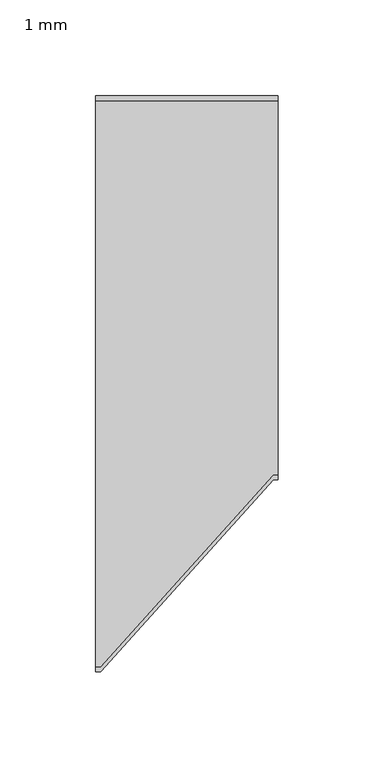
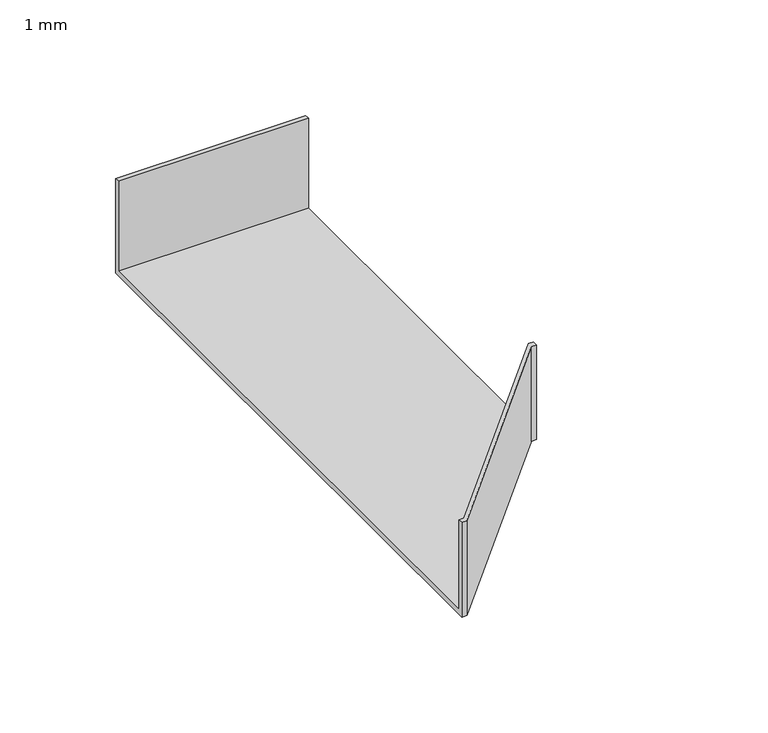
"""IFC4 building model written with IfcOpenShell, lengths in millimetres: cable carrier fitting geometry, BAKS_Redukcja : 1 mm."""

import ifcopenshell
import ifcopenshell.guid

model = None  # the IFC model being written
_history = None  # IfcOwnerHistory: only IFC2X3 demands one
_inside = {}  # id of a spatial element -> (the spatial element, [elements in it])
_under = {}  # id of a project, library or spatial element -> (it, [spatial elements below it])
_declared = {}  # id of a project -> (the project, [libraries it declares])
_typed = {}  # id of a type object -> (the type object, [elements of that type])
_made_of = {}  # id of a material, layer set ... -> (it, [elements and type objects made of it])


def new_model(schema):
    """Start an empty IFC model of exactly this schema.

    Asked for "IFC4X3", IfcOpenShell would pick the latest addendum, in which some entities
    have other attributes; the version numbers below select the first issue.
    IFC2X3 requires an IfcOwnerHistory on every rooted entity: one is made here for all.
    """
    global model, _history
    if schema == "IFC4X3":
        model = ifcopenshell.file(schema_version=(4, 3, 0, 0))
    else:
        model = ifcopenshell.file(schema=schema)
    _inside.clear()
    _under.clear()
    _declared.clear()
    _typed.clear()
    _made_of.clear()
    _history = None
    if model.schema == "IFC2X3":
        org = make("IfcOrganization", Name="unknown")
        user = make(
            "IfcPersonAndOrganization",
            ThePerson=make("IfcPerson", FamilyName="unknown"),
            TheOrganization=org,
        )
        app = make(
            "IfcApplication",
            ApplicationDeveloper=org,
            Version="unknown",
            ApplicationFullName="unknown",
            ApplicationIdentifier="unknown",
        )
        _history = make(
            "IfcOwnerHistory",
            OwningUser=user,
            OwningApplication=app,
            ChangeAction="ADDED",
            CreationDate=0,
        )
    return model


def make(cls, **values):
    """One entity of the class cls with the attributes given. An attribute that is None is left unset."""
    return model.create_entity(
        cls, **{name: value for name, value in values.items() if value is not None}
    )


def rooted(cls, **values):
    """An entity with a GlobalId (a new one), such as an element, a storey or a relation."""
    return make(cls, GlobalId=ifcopenshell.guid.new(), OwnerHistory=_history, **values)


def si_unit(unit_type, name, prefix=None):
    """IfcSIUnit, for example si_unit("LENGTHUNIT", "METRE", prefix="MILLI")."""
    return make("IfcSIUnit", UnitType=unit_type, Prefix=prefix, Name=name)


def assignment(units):
    """IfcUnitAssignment: the units of a project."""
    return None if units is None else make("IfcUnitAssignment", Units=units)


def point(xyz):
    """IfcCartesianPoint."""
    return None if xyz is None else make("IfcCartesianPoint", Coordinates=xyz)


def direction(xyz):
    """IfcDirection."""
    return None if xyz is None else make("IfcDirection", DirectionRatios=xyz)


def frame(location, z_axis=None, x_axis=None):
    """IfcAxis2Placement3D, a coordinate frame: its origin and axes. An axis left out is left unset."""
    return make(
        "IfcAxis2Placement3D",
        Location=point(location),
        Axis=direction(z_axis),
        RefDirection=direction(x_axis),
    )


def origin():
    """The frame at (0, 0, 0) with its axes left unset."""
    return frame((0.0, 0.0, 0.0))


def place(relative_to, where):
    """IfcLocalPlacement: puts the frame where relative to a parent placement (None: the world)."""
    return make(
        "IfcLocalPlacement", PlacementRelTo=relative_to, RelativePlacement=where
    )


def context(
    kind, dimensions, precision=None, world=None, true_north=None, identifier=None
):
    """IfcGeometricRepresentationContext, for example the 3D "Model" context."""
    return make(
        "IfcGeometricRepresentationContext",
        ContextIdentifier=identifier,
        ContextType=kind,
        CoordinateSpaceDimension=dimensions,
        Precision=precision,
        WorldCoordinateSystem=world,
        TrueNorth=true_north,
    )


def project(units=None, contexts=None):
    """IfcProject with its units and contexts."""
    return rooted(
        "IfcProject",
        Name="project",
        RepresentationContexts=contexts,
        UnitsInContext=assignment(units),
    )


def spatial(cls, under=None, at=None, **own):
    """A site, building, storey or space (cls), placed at a placement, below another one or the project."""
    s = rooted(cls, ObjectPlacement=at, **own)
    if under is not None:
        _under.setdefault(under.id(), (under, []))[1].append(s)
    return s


def faces_of(points, faces, orient=None, outer=None):
    """IfcFace entities. A face is a list of loops; a loop is a list of indices into points, from 0.

    orient and outer hold one flag for each loop. By default every Orientation is true, the
    first loop of a face is its IfcFaceOuterBound and the others are IfcFaceBound.
    """
    made = []
    for i, loops in enumerate(faces):
        bounds = []
        for j, loop in enumerate(loops):
            is_outer = j == 0 if outer is None else outer[i][j]
            bounds.append(
                make(
                    "IfcFaceOuterBound" if is_outer else "IfcFaceBound",
                    Bound=make("IfcPolyLoop", Polygon=[points[k] for k in loop]),
                    Orientation=True if orient is None else orient[i][j],
                )
            )
        made.append(make("IfcFace", Bounds=bounds))
    return made


def faceted_brep(points, faces, orient=None, outer=None, voids=None):
    """IfcFacetedBrep: a solid bounded by flat faces; with voids (closed shells), ...WithVoids."""
    shared = [point(p) for p in points]
    hull = make("IfcClosedShell", CfsFaces=faces_of(shared, faces, orient, outer))
    if voids is None:
        return make("IfcFacetedBrep", Outer=hull)
    return make(
        "IfcFacetedBrepWithVoids",
        Outer=hull,
        Voids=[
            make(cls, CfsFaces=faces_of(shared, fs, o, b)) for cls, fs, o, b in voids
        ],
    )


def shape(context_of_items, identifier, shape_type, items):
    """IfcShapeRepresentation: the items that make up one representation, for example the "Body"."""
    return make(
        "IfcShapeRepresentation",
        ContextOfItems=context_of_items,
        RepresentationIdentifier=identifier,
        RepresentationType=shape_type,
        Items=items,
    )


def source(mapping_origin, context_of_items, identifier, shape_type, items):
    """IfcRepresentationMap: a shape defined once, which mapped items show again and again."""
    return make(
        "IfcRepresentationMap",
        MappingOrigin=mapping_origin,
        MappedRepresentation=shape(context_of_items, identifier, shape_type, items),
    )


def transform(
    local_origin,
    x_axis=None,
    y_axis=None,
    z_axis=None,
    scale=None,
    scale2=None,
    scale3=None,
    uniform=True,
):
    """IfcCartesianTransformationOperator3D, or its non-uniform kind. x_axis, y_axis, z_axis: its Axis1, 2, 3."""
    if uniform:
        return make(
            "IfcCartesianTransformationOperator3D",
            Axis1=direction(x_axis),
            Axis2=direction(y_axis),
            LocalOrigin=point(local_origin),
            Scale=scale,
            Axis3=direction(z_axis),
        )
    return make(
        "IfcCartesianTransformationOperator3DnonUniform",
        Axis1=direction(x_axis),
        Axis2=direction(y_axis),
        LocalOrigin=point(local_origin),
        Scale=scale,
        Axis3=direction(z_axis),
        Scale2=scale2,
        Scale3=scale3,
    )


def mapped(mapping_source, mapping_target):
    """IfcMappedItem: shows the shape of a source again, moved by a transform."""
    return make(
        "IfcMappedItem", MappingSource=mapping_source, MappingTarget=mapping_target
    )


def made_of(thing, what):
    """Note that an element or type object is made of a material, layer set ...; save() writes the relation."""
    if what is not None:
        _made_of.setdefault(what.id(), (what, []))[1].append(thing)
    return thing


def element(
    cls,
    number,
    at=None,
    inside=None,
    cuts=None,
    type_object=None,
    material=None,
    context=None,
    identifier="Body",
    shape_type=None,
    held_by="IfcProductDefinitionShape",
    body=None,
    shapes=None,
    **own,
):
    """One element of the class cls, such as IfcWall. Its Tag is "e" and its number.

    at: its placement. inside: the storey or other place that contains it. cuts: it is an
    opening in that element (IfcRelVoidsElement). A single representation is given by context,
    identifier, shape_type and body (its items); several are given by shapes. held_by: the class
    of the entity that holds the representations. save() writes the other relations.
    """
    e = rooted(cls, Tag="e%d" % number, ObjectPlacement=at, **own)
    if body is not None:
        shapes = [shape(context, identifier, shape_type, body)]
    if shapes is not None:
        e.Representation = make(held_by, Representations=shapes)
    if inside is not None:
        _inside.setdefault(inside.id(), (inside, []))[1].append(e)
    if cuts is not None:
        rooted(
            "IfcRelVoidsElement", RelatingBuildingElement=cuts, RelatedOpeningElement=e
        )
    if type_object is not None:
        _typed.setdefault(type_object.id(), (type_object, []))[1].append(e)
    return made_of(e, material)


def aggregate(whole, parts):
    """IfcRelAggregates: a whole, such as a stair, and the parts it consists of."""
    return rooted("IfcRelAggregates", RelatingObject=whole, RelatedObjects=parts)


def save(model, path):
    """Write the relations noted so far, then the file.

    IfcRelAggregates (storeys below a building ...), IfcRelContainedInSpatialStructure (elements
    in a storey), IfcRelDefinesByType, IfcRelAssociatesMaterial and IfcRelDeclares: one each for
    every whole, place, type object, material and project.
    """
    for whole, parts in _under.values():
        aggregate(whole, parts)
    for where, things in _inside.values():
        rooted(
            "IfcRelContainedInSpatialStructure",
            RelatedElements=things,
            RelatingStructure=where,
        )
    for kind, things in _typed.values():
        rooted("IfcRelDefinesByType", RelatedObjects=things, RelatingType=kind)
    for what, things in _made_of.values():
        rooted("IfcRelAssociatesMaterial", RelatedObjects=things, RelatingMaterial=what)
    for by, libraries in _declared.values():
        rooted("IfcRelDeclares", RelatingContext=by, RelatedDefinitions=libraries)
    model.write(path)


def cable_carrier_fitting_1_mm_2e661681(model_context):
    return source(origin(), model_context, "Body", "Brep", [
        faceted_brep([(0.0, -150.0, -25.0), (0.0, -150.0, 25.0), (0.0, -147.46, 25.0), (0.0, -147.46, -22.46), (0.0, 147.46, -22.46), (0.0, 147.46, 25.0), (0.0, 150.0, 25.0), (0.0, 150.0, -25.0), (95.0, -50.0, -25.0), (95.0, 150.0, -25.0), (95.0, 150.0, 25.0), (95.0, 147.46, 25.0), (95.0, 147.46, -22.46), (95.0, -47.46, -22.46), (95.0, -47.46, 25.0), (95.0, -50.0, 25.0), (2.5, -150.0, -25.0), (2.5, -150.0, 25.0), (92.5, -50.0, 25.0), (92.5, -47.46, 25.0), (2.5, -147.46, 25.0), (2.5, -147.46, -22.46), (92.5, -47.46, -22.46), (92.5, -50.0, -25.0)], [[[0, 1, 2, 3, 4, 5, 6, 7]], [[8, 9, 10, 11, 12, 13, 14, 15]], [[1, 0, 16, 17]], [[2, 1, 17, 18, 15, 14, 19, 20]], [[3, 2, 20, 21]], [[4, 3, 21, 22, 13, 12]], [[5, 4, 12, 11]], [[6, 5, 11, 10]], [[7, 6, 10, 9]], [[0, 7, 9, 8, 23, 16]], [[8, 15, 18, 23]], [[14, 13, 22, 19]], [[22, 21, 20, 19]], [[16, 23, 18, 17]]]),
    ])


if __name__ == "__main__":
    model = new_model("IFC4")
    model_context = context("Model", 3, world=origin())
    ifc_project = project(units=[si_unit("LENGTHUNIT", "METRE", prefix="MILLI")], contexts=[model_context])
    site = spatial("IfcSite", under=ifc_project)
    building = spatial("IfcBuilding", under=site)
    placement = place(None, origin())
    cable_carrier_fitting_1_mm_shape = cable_carrier_fitting_1_mm_2e661681(model_context)
    element("IfcCableCarrierFitting", 1, ObjectType="BAKS_Redukcja : 1 mm", at=placement, inside=building, context=model_context, shape_type="MappedRepresentation", body=[
        mapped(cable_carrier_fitting_1_mm_shape, transform((0.0, 0.0, 0.0), x_axis=(1.0, 0.0, 0.0), y_axis=(0.0, 1.0, 0.0), z_axis=(0.0, 0.0, 1.0))),
    ])
    save(model, "model.ifc")
